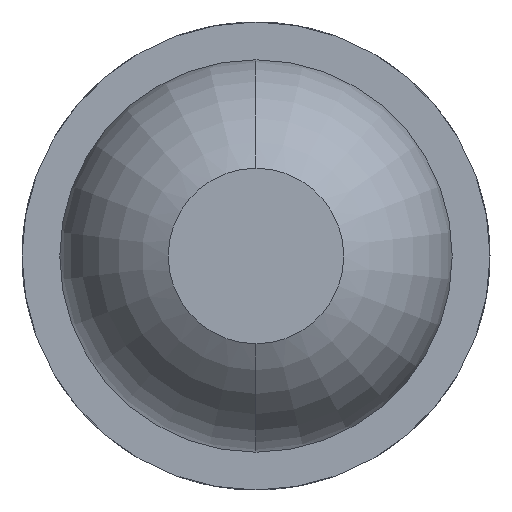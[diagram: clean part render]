
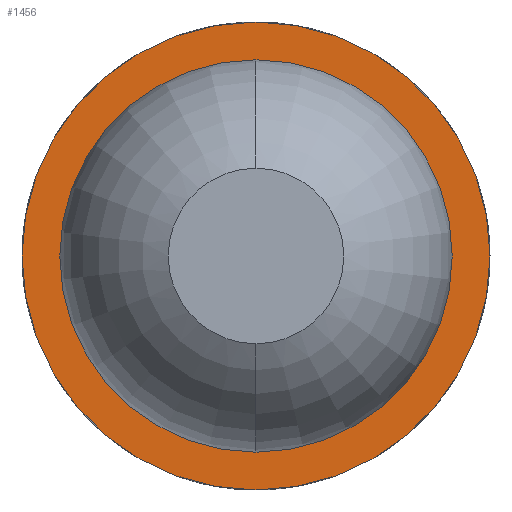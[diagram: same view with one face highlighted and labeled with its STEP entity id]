
A CAD part, left-side view. The second image highlights one B-rep face of the part: STEP entity #1456.
In plain terms, the highlighted planar face has unit normal (-1, 0, 0).
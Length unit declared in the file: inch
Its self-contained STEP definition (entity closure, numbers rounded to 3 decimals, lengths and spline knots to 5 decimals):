
#18 = PLANE ( 'NONE',  #1552 ) ;
#90 = DIRECTION ( 'NONE',  ( 0., 1., 0. ) ) ;
#179 = CIRCLE ( 'NONE', #577, 0.024 ) ;
#202 = AXIS2_PLACEMENT_3D ( 'NONE', #679, #1478, #297 ) ;
#241 = ORIENTED_EDGE ( 'NONE', *, *, #1649, .T. ) ;
#282 = DIRECTION ( 'NONE',  ( 0., 1., 0. ) ) ;
#297 = DIRECTION ( 'NONE',  ( 0., 1., 0. ) ) ;
#326 = EDGE_CURVE ( 'NONE', #1065, #1301, #179, .T. ) ;
#331 = CARTESIAN_POINT ( 'NONE',  ( 1.38, 0.024, 0. ) ) ;
#382 = EDGE_CURVE ( 'NONE', #1659, #1343, #1335, .T. ) ;
#505 = FACE_BOUND ( 'NONE', #1448, .T. ) ;
#577 = AXIS2_PLACEMENT_3D ( 'NONE', #811, #1232, #282 ) ;
#616 = CARTESIAN_POINT ( 'NONE',  ( 1.38, 0., 0. ) ) ;
#679 = CARTESIAN_POINT ( 'NONE',  ( 1.38, 0., 0. ) ) ;
#722 = DIRECTION ( 'NONE',  ( 1., 0., 0. ) ) ;
#759 = CARTESIAN_POINT ( 'NONE',  ( 1.38, -0.024, 0. ) ) ;
#770 = AXIS2_PLACEMENT_3D ( 'NONE', #616, #722, #90 ) ;
#797 = CIRCLE ( 'NONE', #202, 0.024 ) ;
#811 = CARTESIAN_POINT ( 'NONE',  ( 1.38, 0., 0. ) ) ;
#819 = DIRECTION ( 'NONE',  ( 0., 1., 0. ) ) ;
#850 = CIRCLE ( 'NONE', #770, 0.0125 ) ;
#867 = ORIENTED_EDGE ( 'NONE', *, *, #1100, .F. ) ;
#942 = CARTESIAN_POINT ( 'NONE',  ( 1.38, 0., 0. ) ) ;
#1065 = VERTEX_POINT ( 'NONE', #759 ) ;
#1100 = EDGE_CURVE ( 'NONE', #1301, #1065, #797, .T. ) ;
#1193 = FACE_OUTER_BOUND ( 'NONE', #1604, .T. ) ;
#1232 = DIRECTION ( 'NONE',  ( 1., 0., 0. ) ) ;
#1233 = CARTESIAN_POINT ( 'NONE',  ( 1.38, 0.0125, 0. ) ) ;
#1243 = ORIENTED_EDGE ( 'NONE', *, *, #382, .T. ) ;
#1291 = CARTESIAN_POINT ( 'NONE',  ( 1.38, -0.0125, 0. ) ) ;
#1301 = VERTEX_POINT ( 'NONE', #331 ) ;
#1335 = CIRCLE ( 'NONE', #1547, 0.0125 ) ;
#1343 = VERTEX_POINT ( 'NONE', #1291 ) ;
#1448 = EDGE_LOOP ( 'NONE', ( #241, #1243 ) ) ;
#1453 = DIRECTION ( 'NONE',  ( 1., 0., 0. ) ) ;
#1456 = ADVANCED_FACE ( 'NONE', ( #505, #1193 ), #18, .F. ) ;
#1464 = ORIENTED_EDGE ( 'NONE', *, *, #326, .F. ) ;
#1478 = DIRECTION ( 'NONE',  ( 1., 0., 0. ) ) ;
#1547 = AXIS2_PLACEMENT_3D ( 'NONE', #942, #1453, #819 ) ;
#1552 = AXIS2_PLACEMENT_3D ( 'NONE', #1594, #1602, #1568 ) ;
#1568 = DIRECTION ( 'NONE',  ( 0., 1., 0. ) ) ;
#1594 = CARTESIAN_POINT ( 'NONE',  ( 1.38, 0., 0. ) ) ;
#1602 = DIRECTION ( 'NONE',  ( 1., 0., 0. ) ) ;
#1604 = EDGE_LOOP ( 'NONE', ( #867, #1464 ) ) ;
#1649 = EDGE_CURVE ( 'NONE', #1343, #1659, #850, .T. ) ;
#1659 = VERTEX_POINT ( 'NONE', #1233 ) ;
